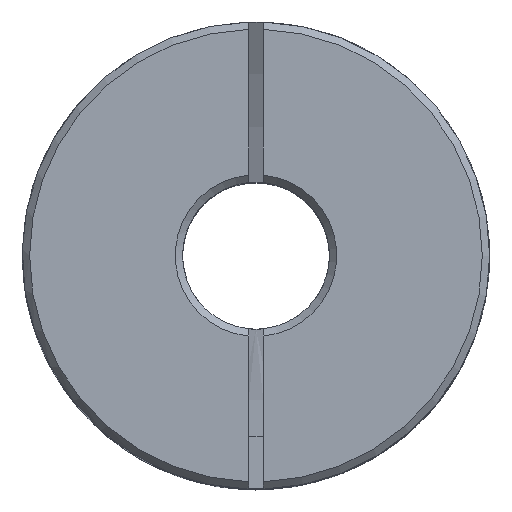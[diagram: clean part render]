
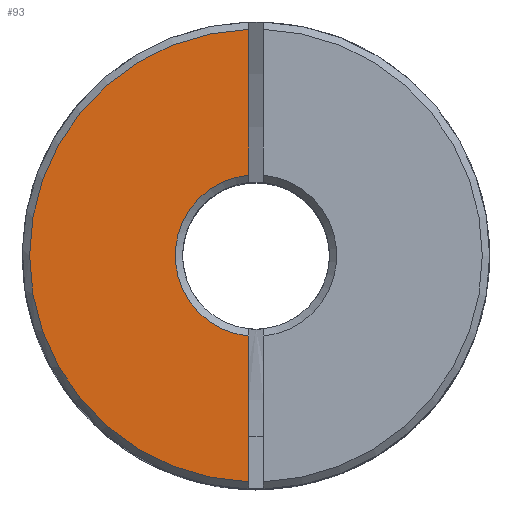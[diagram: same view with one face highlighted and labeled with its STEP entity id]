
A CAD part, top view. The second image highlights one B-rep face of the part: STEP entity #93.
In plain terms, the highlighted planar face has unit normal (0, 0, 1).
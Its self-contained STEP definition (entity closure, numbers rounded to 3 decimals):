
#93 = ADVANCED_FACE( '', ( #182 ), #183, .T. );
#182 = FACE_OUTER_BOUND( '', #332, .T. );
#183 = PLANE( '', #333 );
#332 = EDGE_LOOP( '', ( #620, #621, #622, #623 ) );
#333 = AXIS2_PLACEMENT_3D( '', #624, #625, #626 );
#620 = ORIENTED_EDGE( '', *, *, #915, .T. );
#621 = ORIENTED_EDGE( '', *, *, #951, .T. );
#622 = ORIENTED_EDGE( '', *, *, #896, .T. );
#623 = ORIENTED_EDGE( '', *, *, #952, .T. );
#624 = CARTESIAN_POINT( '', ( -9.55, 0., 8.5 ) );
#625 = DIRECTION( '', ( 0., 0., 1. ) );
#626 = DIRECTION( '', ( 1., 0., 0. ) );
#896 = EDGE_CURVE( '', #1064, #1065, #1066, .T. );
#915 = EDGE_CURVE( '', #1094, #1092, #1095, .T. );
#951 = EDGE_CURVE( '', #1092, #1064, #1154, .T. );
#952 = EDGE_CURVE( '', #1065, #1094, #1155, .F. );
#1064 = VERTEX_POINT( '', #1574 );
#1065 = VERTEX_POINT( '', #1575 );
#1066 = LINE( '', #1576, #1577 );
#1092 = VERTEX_POINT( '', #1620 );
#1094 = VERTEX_POINT( '', #1625 );
#1095 = LINE( '', #1626, #1627 );
#1154 = CIRCLE( '', #1732, 9.25 );
#1155 = CIRCLE( '', #1733, 3.3 );
#1574 = CARTESIAN_POINT( '', ( -0.3, -9.245, 8.5 ) );
#1575 = CARTESIAN_POINT( '', ( -0.3, -3.286, 8.5 ) );
#1576 = CARTESIAN_POINT( '', ( -0.3, -9.55, 8.5 ) );
#1577 = VECTOR( '', #1859, 1000. );
#1620 = CARTESIAN_POINT( '', ( -0.3, 9.245, 8.5 ) );
#1625 = CARTESIAN_POINT( '', ( -0.3, 3.286, 8.5 ) );
#1626 = CARTESIAN_POINT( '', ( -0.3, -9.55, 8.5 ) );
#1627 = VECTOR( '', #1886, 1000. );
#1732 = AXIS2_PLACEMENT_3D( '', #1933, #1934, #1935 );
#1733 = AXIS2_PLACEMENT_3D( '', #1936, #1937, #1938 );
#1859 = DIRECTION( '', ( 0., 1., 0. ) );
#1886 = DIRECTION( '', ( 0., 1., 0. ) );
#1933 = CARTESIAN_POINT( '', ( 0., 0., 8.5 ) );
#1934 = DIRECTION( '', ( 0., 0., 1. ) );
#1935 = DIRECTION( '', ( 1., 0., 0. ) );
#1936 = CARTESIAN_POINT( '', ( 0., 0., 8.5 ) );
#1937 = DIRECTION( '', ( 0., 0., 1. ) );
#1938 = DIRECTION( '', ( 1., 0., 0. ) );
